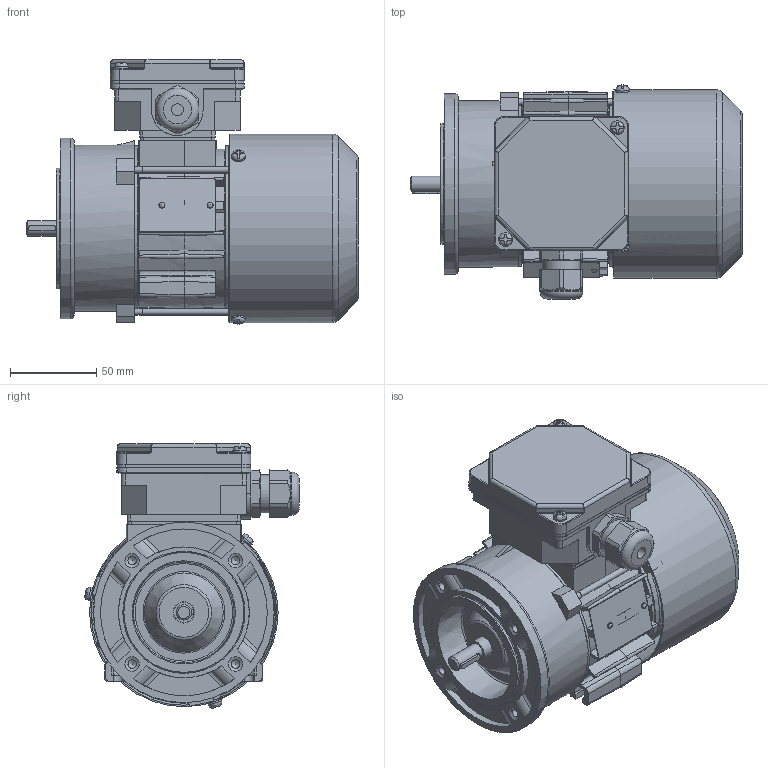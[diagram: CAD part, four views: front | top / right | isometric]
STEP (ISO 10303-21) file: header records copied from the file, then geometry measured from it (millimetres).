
FILE_DESCRIPTION( ( 'Unknown' ), '1' );
FILE_NAME( 'G:/Poczta Tk-1/STP/w.m.56/Sh56/SKh56-B1.stp', 'Unknown', ( 'K. Szlosek' ), ( 'BESEL S.A.' ), 'PSStep 17.0.49', 'Unknown', ' ' );
FILE_SCHEMA( ( 'AUTOMOTIVE_DESIGN { 1 0 10303 214 1 1 1 1 }' ) );
Length unit declared in the file: millimetre
Products named in the file (28): Assem1; K4-2320 Uszczelka nr 1 Sh71,80; K3-9987 kadłub ze stojanem Sh56-B; K3-2193 Tarcza łożyskowa P Sg56-2..; K3-9990 wał Sh56-B; K2-0860 Pokrywka skrzynki zaciskowej; Wpust A3x3x16; K3-2977 Osłona przewietrznika Sg56; K4-2820 Uszczelka nr 2 Sh71,80; Wkręt samogwintujący M4x8; Wkręt samogwintujący M4x16; K2-0879 Przewietrznik Sg56; Nitokołek A 2x6; K1-0529 Tarcza kołnierzowa B14_1 SKg56-..1; K2-0859 Podstawa skrzynki 6-cio zaciskowej; Śruba ściągająca E_M4x75; Tabliczka znamionowa 32x44; Łożysko 6201; Dławnica M20x1,5
Assembly tree (43 placements, depth 2):
  Assem1
    K4-2320 Uszczelka nr 1 Sh71,80
    K3-9987 kadłub ze stojanem Sh56-B
    K3-2193 Tarcza łożyskowa P Sg56-2..
    K3-9990 wał Sh56-B
    K2-0860 Pokrywka skrzynki zaciskowej
    Wpust A3x3x16
    K3-2977 Osłona przewietrznika Sg56
    K4-2820 Uszczelka nr 2 Sh71,80
    Wkręt samogwintujący M4x8  x3
    Wkręt samogwintujący M4x16  x2
    K2-0879 Przewietrznik Sg56
    Nitokołek A 2x6  x2
    K1-0529 Tarcza kołnierzowa B14_1 SKg56-..1
    K2-0859 Podstawa skrzynki 6-cio zaciskowej
    Śruba ściągająca E_M4x75  x3
    Tabliczka znamionowa 32x44
    Łożysko 6201  x2
    Łożysko 6201  x2
    Łożysko 6201  x2
    Łożysko 6201  x2
    Łożysko 6201  x2
    Łożysko 6201  x2
    Łożysko 6201  x2
    Łożysko 6201  x2
    Łożysko 6201  x2
    Łożysko 6201  x2
    Dławnica M20x1,5
Bounding box: 193 x 124.54 x 153.72 mm (x, y, z)
Volume: 433677.4 mm3; surface area: 302181.4 mm2
Topology: 43 solids, 59 shells, 1728 faces, 4643 edges, 2985 vertices
Faces by surface type: plane 881, cylinder 505, torus 124, cone 108, bspline 76, sphere 34
Full cylindrical faces by diameter (mm): 2 x2, 2.4 x2, 3.242 x3, 3.7 x10, 4 x8, 4.5 x4, 4.8 x4, 4.917 x4, 5 x4, 7 x4, 8 x6, 9 x1, 10.9 x1, 11 x1, 11.5 x1, 11.8 x2, 12 x4, 12.4 x2, 15.5 x1, 16 x1, 16.1 x1, 17 x2, 18.376 x1, 18.38 x1, 18.52 x4, 20 x1, 22.3 x1, 24 x2, 25 x1, 25.48 x4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
Entity records: 72816 total; most frequent: CARTESIAN_POINT 21361, DIRECTION 7977, ORIENTED_EDGE 7888, EDGE_CURVE 3944, AXIS2_PLACEMENT_3D 2972, VERTEX_POINT 2672, LINE 2033, VECTOR 2033
